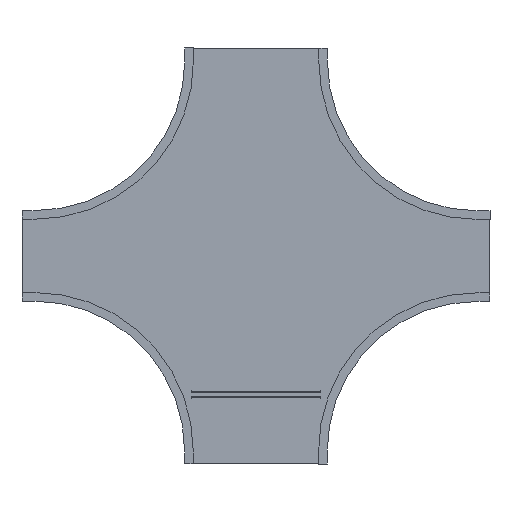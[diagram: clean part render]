
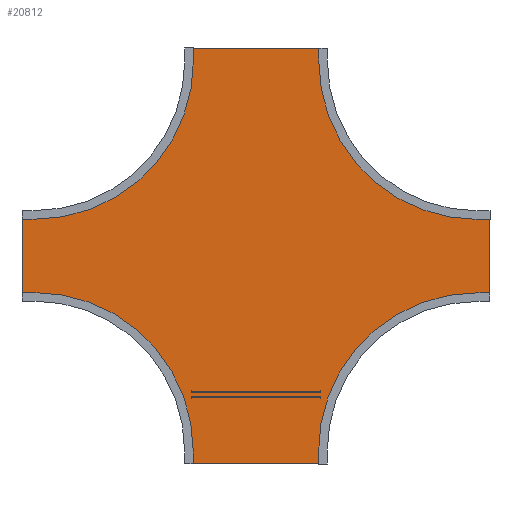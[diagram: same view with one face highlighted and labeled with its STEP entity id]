
A CAD part, front view. The second image highlights one B-rep face of the part: STEP entity #20812.
In plain terms, the highlighted planar face has unit normal (0, -1, 0).
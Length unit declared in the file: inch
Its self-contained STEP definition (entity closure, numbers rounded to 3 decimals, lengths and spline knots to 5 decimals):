
#20509=DIRECTION('',(0.,0.,1.));
#20510=VECTOR('',#20509,17.875);
#20511=CARTESIAN_POINT('',(-53.875,0.,-8.9375));
#20512=LINE('',#20511,#20510);
#20513=DIRECTION('',(1.,0.,0.));
#20514=VECTOR('',#20513,2.785);
#20515=CARTESIAN_POINT('',(-53.875,0.,8.9375));
#20516=LINE('',#20515,#20514);
#20517=CARTESIAN_POINT('',(-51.09,0.,45.09));
#20518=DIRECTION('',(0.,-1.,0.));
#20519=DIRECTION('',(0.,0.,-1.));
#20520=AXIS2_PLACEMENT_3D('',#20517,#20518,#20519);
#20522=DIRECTION('',(0.,0.,1.));
#20523=VECTOR('',#20522,2.785);
#20524=CARTESIAN_POINT('',(-14.9375,0.,45.09));
#20525=LINE('',#20524,#20523);
#20526=DIRECTION('',(1.,0.,0.));
#20527=VECTOR('',#20526,29.875);
#20528=CARTESIAN_POINT('',(-14.9375,0.,47.875));
#20529=LINE('',#20528,#20527);
#20530=DIRECTION('',(0.,0.,-1.));
#20531=VECTOR('',#20530,2.785);
#20532=CARTESIAN_POINT('',(14.9375,0.,47.875));
#20533=LINE('',#20532,#20531);
#20534=CARTESIAN_POINT('',(51.09,0.,45.09));
#20535=DIRECTION('',(0.,-1.,0.));
#20536=DIRECTION('',(-1.,0.,0.));
#20537=AXIS2_PLACEMENT_3D('',#20534,#20535,#20536);
#20539=DIRECTION('',(1.,0.,0.));
#20540=VECTOR('',#20539,2.785);
#20541=CARTESIAN_POINT('',(51.09,0.,8.9375));
#20542=LINE('',#20541,#20540);
#20543=DIRECTION('',(0.,0.,-1.));
#20544=VECTOR('',#20543,17.875);
#20545=CARTESIAN_POINT('',(53.875,0.,8.9375));
#20546=LINE('',#20545,#20544);
#20547=DIRECTION('',(-1.,0.,0.));
#20548=VECTOR('',#20547,2.785);
#20549=CARTESIAN_POINT('',(53.875,0.,-8.9375));
#20550=LINE('',#20549,#20548);
#20551=CARTESIAN_POINT('',(51.09,0.,-45.09));
#20552=DIRECTION('',(0.,-1.,0.));
#20553=DIRECTION('',(0.,0.,1.));
#20554=AXIS2_PLACEMENT_3D('',#20551,#20552,#20553);
#20556=DIRECTION('',(0.,0.,-1.));
#20557=VECTOR('',#20556,2.785);
#20558=CARTESIAN_POINT('',(14.9375,0.,-45.09));
#20559=LINE('',#20558,#20557);
#20560=DIRECTION('',(-1.,0.,0.));
#20561=VECTOR('',#20560,29.875);
#20562=CARTESIAN_POINT('',(14.9375,0.,-47.875));
#20563=LINE('',#20562,#20561);
#20564=DIRECTION('',(0.,0.,1.));
#20565=VECTOR('',#20564,2.785);
#20566=CARTESIAN_POINT('',(-14.9375,0.,-47.875));
#20567=LINE('',#20566,#20565);
#20568=CARTESIAN_POINT('',(-51.09,0.,-45.09));
#20569=DIRECTION('',(0.,-1.,0.));
#20570=DIRECTION('',(1.,0.,0.));
#20571=AXIS2_PLACEMENT_3D('',#20568,#20569,#20570);
#20573=DIRECTION('',(-1.,0.,0.));
#20574=VECTOR('',#20573,2.785);
#20575=CARTESIAN_POINT('',(-51.09,0.,-8.9375));
#20576=LINE('',#20575,#20574);
#20709=CARTESIAN_POINT('',(-53.875,0.,-8.9375));
#20710=CARTESIAN_POINT('',(-53.875,0.,8.9375));
#20711=VERTEX_POINT('',#20709);
#20712=VERTEX_POINT('',#20710);
#20713=CARTESIAN_POINT('',(-51.09,0.,8.9375));
#20714=VERTEX_POINT('',#20713);
#20715=CARTESIAN_POINT('',(-14.9375,0.,45.09));
#20716=VERTEX_POINT('',#20715);
#20717=CARTESIAN_POINT('',(-14.9375,0.,47.875));
#20718=VERTEX_POINT('',#20717);
#20719=CARTESIAN_POINT('',(14.9375,0.,47.875));
#20720=VERTEX_POINT('',#20719);
#20721=CARTESIAN_POINT('',(14.9375,0.,45.09));
#20722=VERTEX_POINT('',#20721);
#20723=CARTESIAN_POINT('',(51.09,0.,8.9375));
#20724=VERTEX_POINT('',#20723);
#20725=CARTESIAN_POINT('',(53.875,0.,8.9375));
#20726=VERTEX_POINT('',#20725);
#20727=CARTESIAN_POINT('',(53.875,0.,-8.9375));
#20728=VERTEX_POINT('',#20727);
#20729=CARTESIAN_POINT('',(51.09,0.,-8.9375));
#20730=VERTEX_POINT('',#20729);
#20731=CARTESIAN_POINT('',(14.9375,0.,-45.09));
#20732=VERTEX_POINT('',#20731);
#20733=CARTESIAN_POINT('',(14.9375,0.,-47.875));
#20734=VERTEX_POINT('',#20733);
#20735=CARTESIAN_POINT('',(-14.9375,0.,-47.875));
#20736=VERTEX_POINT('',#20735);
#20737=CARTESIAN_POINT('',(-14.9375,0.,-45.09));
#20738=VERTEX_POINT('',#20737);
#20739=CARTESIAN_POINT('',(-51.09,0.,-8.9375));
#20740=VERTEX_POINT('',#20739);
#20773=CARTESIAN_POINT('',(0.,0.,0.));
#20774=DIRECTION('',(0.,1.,0.));
#20775=DIRECTION('',(1.,0.,0.));
#20776=AXIS2_PLACEMENT_3D('',#20773,#20774,#20775);
#20777=PLANE('',#20776);
#20779=ORIENTED_EDGE('',*,*,#20778,.T.);
#20781=ORIENTED_EDGE('',*,*,#20780,.T.);
#20783=ORIENTED_EDGE('',*,*,#20782,.T.);
#20785=ORIENTED_EDGE('',*,*,#20784,.T.);
#20787=ORIENTED_EDGE('',*,*,#20786,.T.);
#20789=ORIENTED_EDGE('',*,*,#20788,.T.);
#20791=ORIENTED_EDGE('',*,*,#20790,.T.);
#20793=ORIENTED_EDGE('',*,*,#20792,.T.);
#20795=ORIENTED_EDGE('',*,*,#20794,.T.);
#20797=ORIENTED_EDGE('',*,*,#20796,.T.);
#20799=ORIENTED_EDGE('',*,*,#20798,.T.);
#20801=ORIENTED_EDGE('',*,*,#20800,.T.);
#20803=ORIENTED_EDGE('',*,*,#20802,.T.);
#20805=ORIENTED_EDGE('',*,*,#20804,.T.);
#20807=ORIENTED_EDGE('',*,*,#20806,.T.);
#20809=ORIENTED_EDGE('',*,*,#20808,.T.);
#20810=EDGE_LOOP('',(#20779,#20781,#20783,#20785,#20787,#20789,#20791,#20793,
#20795,#20797,#20799,#20801,#20803,#20805,#20807,#20809));
#20811=FACE_OUTER_BOUND('',#20810,.F.);
#20812=ADVANCED_FACE('',(#20811),#20777,.F.);
#20521=CIRCLE('',#20520,36.1525);
#20538=CIRCLE('',#20537,36.1525);
#20555=CIRCLE('',#20554,36.1525);
#20572=CIRCLE('',#20571,36.1525);
#20778=EDGE_CURVE('',#20711,#20712,#20512,.T.);
#20780=EDGE_CURVE('',#20712,#20714,#20516,.T.);
#20782=EDGE_CURVE('',#20714,#20716,#20521,.T.);
#20784=EDGE_CURVE('',#20716,#20718,#20525,.T.);
#20786=EDGE_CURVE('',#20718,#20720,#20529,.T.);
#20788=EDGE_CURVE('',#20720,#20722,#20533,.T.);
#20790=EDGE_CURVE('',#20722,#20724,#20538,.T.);
#20792=EDGE_CURVE('',#20724,#20726,#20542,.T.);
#20794=EDGE_CURVE('',#20726,#20728,#20546,.T.);
#20796=EDGE_CURVE('',#20728,#20730,#20550,.T.);
#20798=EDGE_CURVE('',#20730,#20732,#20555,.T.);
#20800=EDGE_CURVE('',#20732,#20734,#20559,.T.);
#20802=EDGE_CURVE('',#20734,#20736,#20563,.T.);
#20804=EDGE_CURVE('',#20736,#20738,#20567,.T.);
#20806=EDGE_CURVE('',#20738,#20740,#20572,.T.);
#20808=EDGE_CURVE('',#20740,#20711,#20576,.T.);
